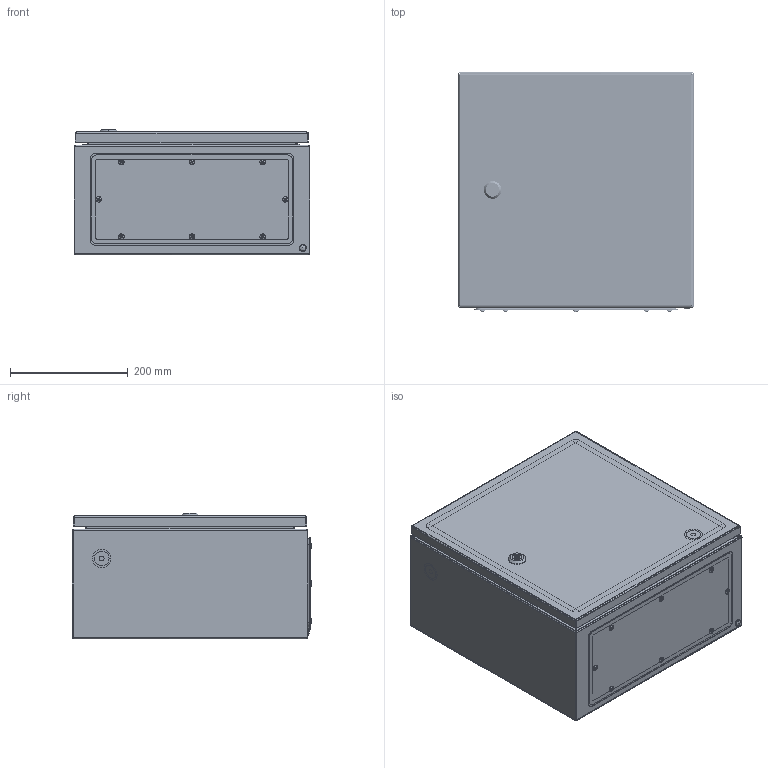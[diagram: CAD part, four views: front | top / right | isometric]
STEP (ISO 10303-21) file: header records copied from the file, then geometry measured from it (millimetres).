
FILE_DESCRIPTION (( 'STEP AP214' ), '1' );
FILE_NAME ('T-CCS 40.40.21.STEP', '2024-08-19T14:39:43', ( '' ), ( '' ), 'SwSTEP 2.0', 'SolidWorks 2019', '' );
FILE_SCHEMA (( 'AUTOMOTIVE_DESIGN' ));
Length unit declared in the file: millimetre
Products named in the file (1): T-CCS 40.40.21
Bounding box: 400 x 406.62 x 213.95 mm (x, y, z)
Volume: 1944150.4 mm3; surface area: 2089817.8 mm2
Topology: 73 solids, 73 shells, 3463 faces, 8800 edges, 5558 vertices
Faces by surface type: plane 1830, cylinder 1059, cone 284, bspline 140, torus 107, sphere 43
Entity records: 170922 total; most frequent: CARTESIAN_POINT 50101, ORIENTED_EDGE 17490, DIRECTION 16577, EDGE_CURVE 8745, AXIS2_PLACEMENT_3D 5649, VERTEX_POINT 5556, VECTOR 5279, LINE 5279
